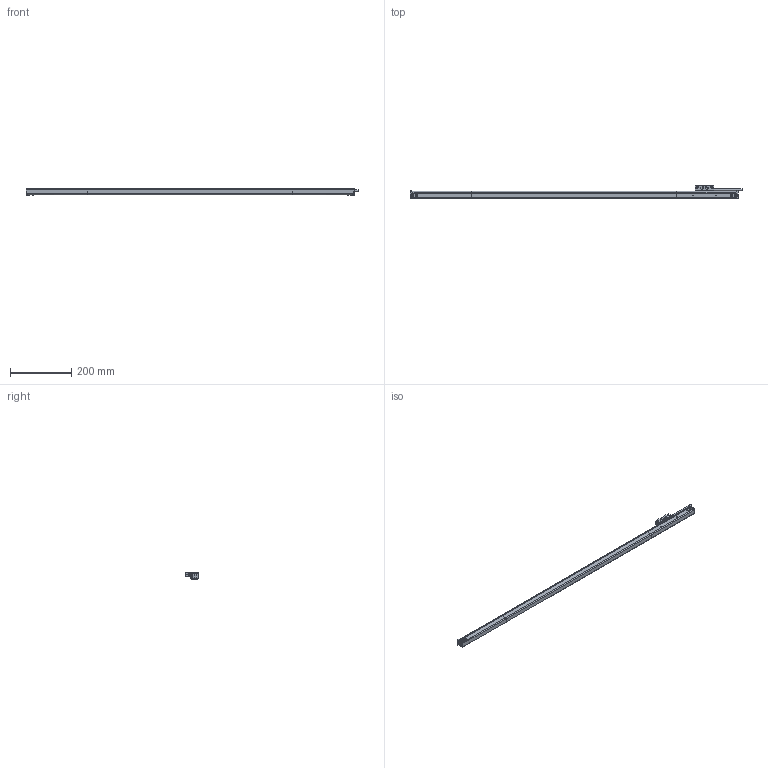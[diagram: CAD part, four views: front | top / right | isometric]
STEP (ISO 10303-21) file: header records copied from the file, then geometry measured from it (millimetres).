
FILE_DESCRIPTION( ( 'STEP AP203' ), '1' );
FILE_NAME( 'N:/Engineering/CAD_Solid/Magnescale/GBER/GB-095ER_SR138-095R.stp', '2013-03-14T10:06:18', ( ' ' ), ( ' ' ), 'XStep 1.0', ' ', ' ' );
FILE_SCHEMA( ( 'CONFIG_CONTROL_DESIGN) ( )' ) );
Length unit declared in the file: metre
Products named in the file (1): 1
Bounding box: 1082.5 x 42 x 21 mm (x, y, z)
Surface area: 106596.4 mm2 (no closed solid volume)
Topology: 0 solids, 258 shells, 258 faces, 1403 edges, 1372 vertices
Faces by surface type: plane 165, cylinder 74, torus 12, cone 7
Full cylindrical faces by diameter (mm): 2.013 x1, 2.113 x2, 4 x8, 4.8 x1, 5 x2, 6 x1, 9.8 x2, 10 x2
Entity records: 13572 total; most frequent: CARTESIAN_POINT 2985, DIRECTION 2285, ORIENTED_EDGE 1363, EDGE_CURVE 1363, VERTEX_POINT 1363, LINE 959, VECTOR 959, AXIS2_PLACEMENT_3D 663
